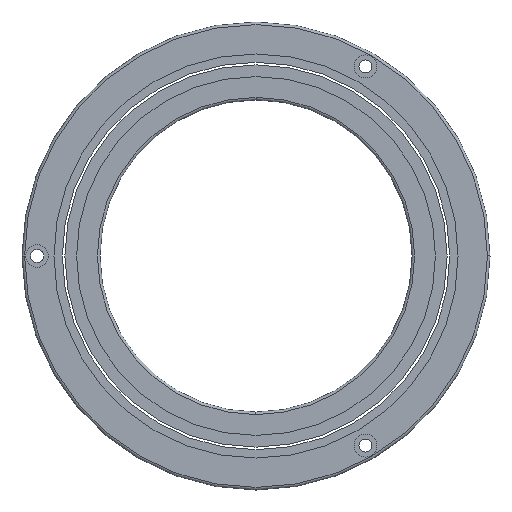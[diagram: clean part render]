
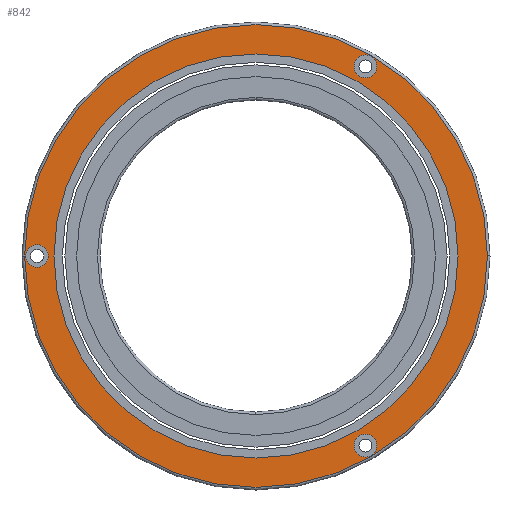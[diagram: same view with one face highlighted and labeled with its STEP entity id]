
A CAD part, front view. The second image highlights one B-rep face of the part: STEP entity #842.
In plain terms, the highlighted planar face has unit normal (0, -1, 0).
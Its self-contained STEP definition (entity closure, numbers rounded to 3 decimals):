
#61=CARTESIAN_POINT('',(0.,-0.1,0.));
#62=DIRECTION('',(0.,-1.,0.));
#63=DIRECTION('',(-1.,0.,0.));
#64=AXIS2_PLACEMENT_3D('',#61,#62,#63);
#66=CARTESIAN_POINT('',(0.,-0.1,0.));
#67=DIRECTION('',(0.,1.,0.));
#68=DIRECTION('',(-1.,0.,0.));
#69=AXIS2_PLACEMENT_3D('',#66,#67,#68);
#71=CARTESIAN_POINT('',(-42.1,-0.1,0.));
#72=DIRECTION('',(0.,1.,0.));
#73=DIRECTION('',(1.,0.,0.));
#74=AXIS2_PLACEMENT_3D('',#71,#72,#73);
#76=CARTESIAN_POINT('',(-42.1,-0.1,0.));
#77=DIRECTION('',(0.,1.,0.));
#78=DIRECTION('',(-1.,0.,0.));
#79=AXIS2_PLACEMENT_3D('',#76,#77,#78);
#81=CARTESIAN_POINT('',(21.05,-0.1,36.46));
#82=DIRECTION('',(0.,1.,0.));
#83=DIRECTION('',(-0.5,0.,-0.866));
#84=AXIS2_PLACEMENT_3D('',#81,#82,#83);
#86=CARTESIAN_POINT('',(21.05,-0.1,36.46));
#87=DIRECTION('',(0.,1.,0.));
#88=DIRECTION('',(0.5,0.,0.866));
#89=AXIS2_PLACEMENT_3D('',#86,#87,#88);
#91=CARTESIAN_POINT('',(21.05,-0.1,-36.46));
#92=DIRECTION('',(0.,1.,0.));
#93=DIRECTION('',(-0.5,0.,0.866));
#94=AXIS2_PLACEMENT_3D('',#91,#92,#93);
#96=CARTESIAN_POINT('',(21.05,-0.1,-36.46));
#97=DIRECTION('',(0.,1.,0.));
#98=DIRECTION('',(0.5,0.,-0.866));
#99=AXIS2_PLACEMENT_3D('',#96,#97,#98);
#101=CARTESIAN_POINT('',(0.,-0.1,0.));
#102=DIRECTION('',(0.,1.,0.));
#103=DIRECTION('',(-1.,0.,0.));
#104=AXIS2_PLACEMENT_3D('',#101,#102,#103);
#106=CARTESIAN_POINT('',(0.,-0.1,0.));
#107=DIRECTION('',(0.,1.,0.));
#108=DIRECTION('',(1.,0.,0.));
#109=AXIS2_PLACEMENT_3D('',#106,#107,#108);
#667=CARTESIAN_POINT('',(-39.9,-0.1,0.));
#668=VERTEX_POINT('',#667);
#669=CARTESIAN_POINT('',(-44.3,-0.1,0.));
#670=VERTEX_POINT('',#669);
#679=CARTESIAN_POINT('',(19.95,-0.1,34.554));
#680=VERTEX_POINT('',#679);
#681=CARTESIAN_POINT('',(22.15,-0.1,38.365));
#682=VERTEX_POINT('',#681);
#691=CARTESIAN_POINT('',(19.95,-0.1,-34.554));
#692=VERTEX_POINT('',#691);
#693=CARTESIAN_POINT('',(22.15,-0.1,-38.365));
#694=VERTEX_POINT('',#693);
#712=CARTESIAN_POINT('',(-38.85,-0.1,0.));
#714=VERTEX_POINT('',#712);
#716=CARTESIAN_POINT('',(38.85,-0.1,0.));
#718=VERTEX_POINT('',#716);
#731=CARTESIAN_POINT('',(-44.5,-0.1,0.));
#732=CARTESIAN_POINT('',(44.5,-0.1,0.));
#733=VERTEX_POINT('',#731);
#734=VERTEX_POINT('',#732);
#809=CARTESIAN_POINT('',(0.,-0.1,0.));
#810=DIRECTION('',(0.,1.,0.));
#811=DIRECTION('',(1.,0.,0.));
#812=AXIS2_PLACEMENT_3D('',#809,#810,#811);
#813=PLANE('',#812);
#815=ORIENTED_EDGE('',*,*,#814,.T.);
#817=ORIENTED_EDGE('',*,*,#816,.T.);
#818=EDGE_LOOP('',(#815,#817));
#819=FACE_OUTER_BOUND('',#818,.F.);
#821=ORIENTED_EDGE('',*,*,#820,.F.);
#823=ORIENTED_EDGE('',*,*,#822,.F.);
#824=EDGE_LOOP('',(#821,#823));
#825=FACE_BOUND('',#824,.F.);
#827=ORIENTED_EDGE('',*,*,#826,.F.);
#829=ORIENTED_EDGE('',*,*,#828,.F.);
#830=EDGE_LOOP('',(#827,#829));
#831=FACE_BOUND('',#830,.F.);
#833=ORIENTED_EDGE('',*,*,#832,.F.);
#835=ORIENTED_EDGE('',*,*,#834,.F.);
#836=EDGE_LOOP('',(#833,#835));
#837=FACE_BOUND('',#836,.F.);
#838=ORIENTED_EDGE('',*,*,#804,.T.);
#839=ORIENTED_EDGE('',*,*,#788,.F.);
#840=EDGE_LOOP('',(#838,#839));
#841=FACE_BOUND('',#840,.F.);
#65=CIRCLE('',#64,38.85);
#70=CIRCLE('',#69,38.85);
#75=CIRCLE('',#74,2.2);
#80=CIRCLE('',#79,2.2);
#85=CIRCLE('',#84,2.2);
#90=CIRCLE('',#89,2.2);
#95=CIRCLE('',#94,2.2);
#100=CIRCLE('',#99,2.2);
#105=CIRCLE('',#104,44.5);
#110=CIRCLE('',#109,44.5);
#788=EDGE_CURVE('',#714,#718,#70,.T.);
#804=EDGE_CURVE('',#714,#718,#65,.T.);
#814=EDGE_CURVE('',#733,#734,#105,.T.);
#816=EDGE_CURVE('',#734,#733,#110,.T.);
#820=EDGE_CURVE('',#668,#670,#75,.T.);
#822=EDGE_CURVE('',#670,#668,#80,.T.);
#826=EDGE_CURVE('',#680,#682,#85,.T.);
#828=EDGE_CURVE('',#682,#680,#90,.T.);
#832=EDGE_CURVE('',#692,#694,#95,.T.);
#834=EDGE_CURVE('',#694,#692,#100,.T.);
#842=ADVANCED_FACE('',(#819,#825,#831,#837,#841),#813,.F.);
